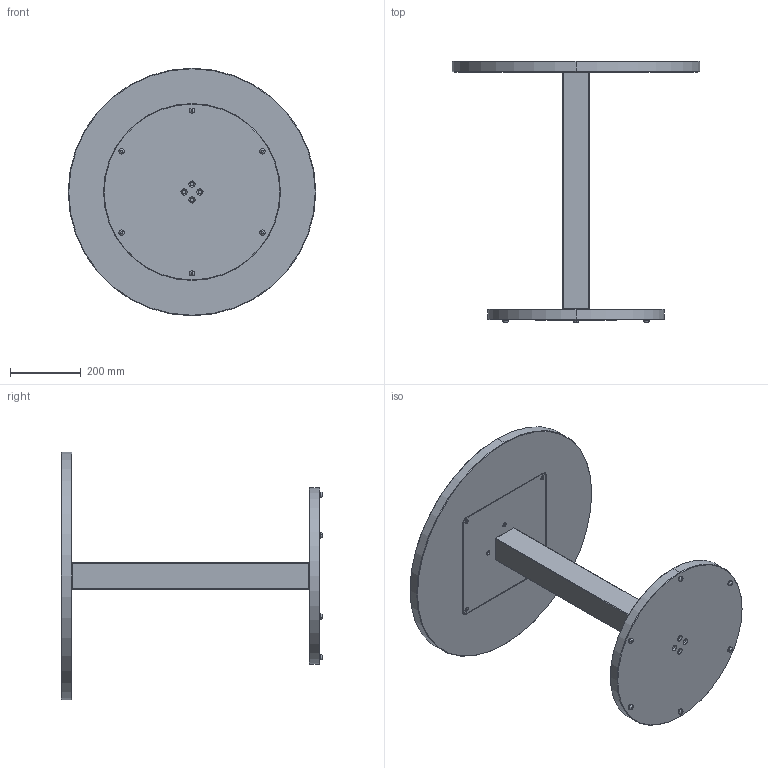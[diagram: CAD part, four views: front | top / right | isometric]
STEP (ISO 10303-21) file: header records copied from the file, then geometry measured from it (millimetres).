
FILE_DESCRIPTION (( 'STEP AP214' ), '1' );
FILE_NAME ('4276X Atlas Bistro Table.STEP', '2025-11-27T10:02:23', ( '' ), ( '' ), 'SwSTEP 2.0', 'SolidWorks 2025', '' );
FILE_SCHEMA (( 'AUTOMOTIVE_DESIGN' ));
Length unit declared in the file: millimetre
Products named in the file (5): 4276X Atlas Bistro Table, Base; 4276X Atlas Bistro Table, Tabletop; 4276X Atlas Bistro Table, Column; 4276X Atlas Bistro Table; 4276X Atlas Bistro Table, Support Plate
Assembly tree (4 placements, depth 2):
  4276X Atlas Bistro Table
    4276X Atlas Bistro Table, Base
    4276X Atlas Bistro Table, Column
    4276X Atlas Bistro Table, Support Plate
    4276X Atlas Bistro Table, Tabletop
Bounding box: 700 x 739.25 x 700 mm (x, y, z)
Volume: 21103853.4 mm3; surface area: 1724500.5 mm2
Topology: 5 solids, 5 shells, 238 faces, 528 edges, 324 vertices
Faces by surface type: cylinder 92, plane 74, cone 56, torus 16
Entity records: 6831 total; most frequent: DIRECTION 1302, CARTESIAN_POINT 1097, ORIENTED_EDGE 1056, AXIS2_PLACEMENT_3D 529, EDGE_CURVE 528, VERTEX_POINT 324, EDGE_LOOP 294, CIRCLE 284
